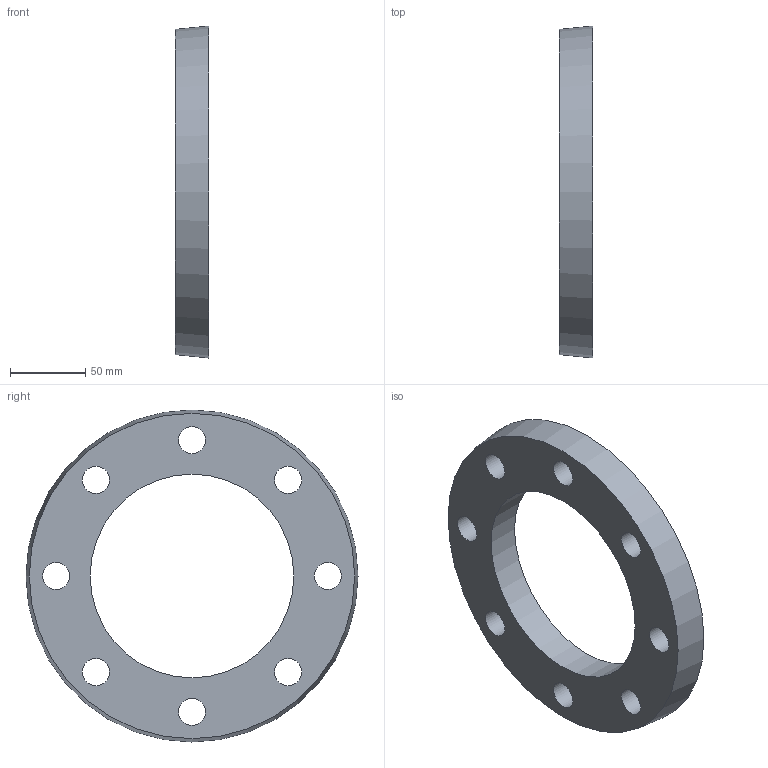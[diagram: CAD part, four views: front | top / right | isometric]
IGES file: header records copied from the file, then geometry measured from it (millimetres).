
Global section: file name: 059000110.ipt; native system: Autodesk Inventor 2015; preprocessor: unknown; author: KIM; date: 20171207.165918; units: millimetre
Bounding box: 22 x 220 x 220 mm (x, y, z)
Volume: 459985.7 mm3; surface area: 76233.4 mm2
Topology: 1 solids, 1 shells, 12 faces, 32 edges, 22 vertices
Faces by surface type: revolution 9, plane 2, cone 1
